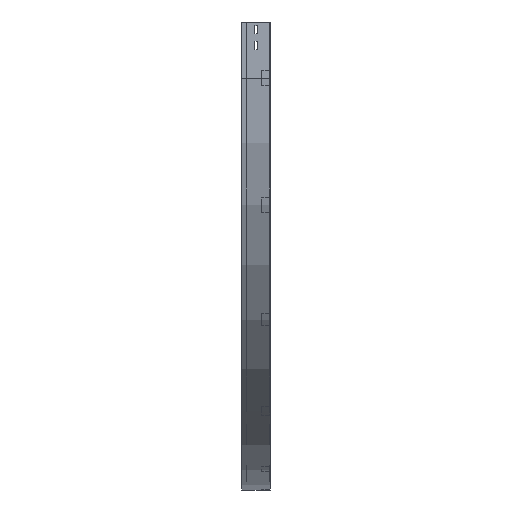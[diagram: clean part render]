
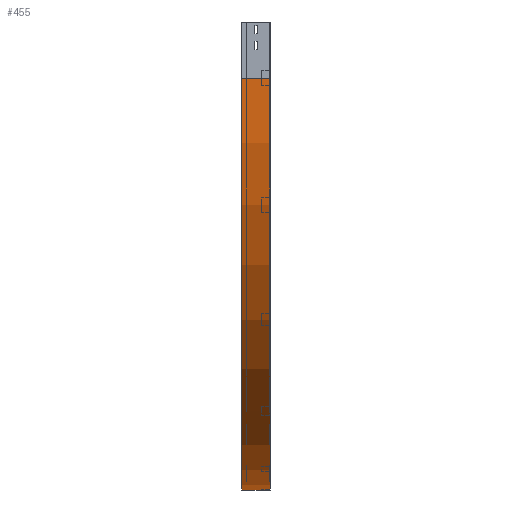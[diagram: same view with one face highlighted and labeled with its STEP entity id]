
A CAD part, left-side view. The second image highlights one B-rep face of the part: STEP entity #455.
In plain terms, the highlighted cylindrical face has radius 1100 mm (diameter 2200 mm), a partial arc.
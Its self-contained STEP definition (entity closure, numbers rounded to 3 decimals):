
#29 = DIRECTION ( 'NONE',  ( -1., 0., 0. ) ) ;
#38 = DIRECTION ( 'NONE',  ( -1., 0., 0. ) ) ;
#218 = ORIENTED_EDGE ( 'NONE', *, *, #429, .T. ) ;
#315 = CARTESIAN_POINT ( 'NONE',  ( 1100., 75., -1250. ) ) ;
#356 = DIRECTION ( 'NONE',  ( 0., -1., 0. ) ) ;
#412 = ORIENTED_EDGE ( 'NONE', *, *, #730, .T. ) ;
#429 = EDGE_CURVE ( 'NONE', #532, #1018, #1457, .T. ) ;
#455 = ADVANCED_FACE ( 'NONE', ( #648 ), #1841, .T. ) ;
#532 = VERTEX_POINT ( 'NONE', #925 ) ;
#634 = CARTESIAN_POINT ( 'NONE',  ( 0., 0., -150. ) ) ;
#648 = FACE_OUTER_BOUND ( 'NONE', #3246, .T. ) ;
#730 = EDGE_CURVE ( 'NONE', #1018, #2683, #1054, .T. ) ;
#865 = AXIS2_PLACEMENT_3D ( 'NONE', #3092, #2475, #29 ) ;
#925 = CARTESIAN_POINT ( 'NONE',  ( 0., 75., -150. ) ) ;
#997 = EDGE_CURVE ( 'NONE', #532, #2846, #3309, .T. ) ;
#1018 = VERTEX_POINT ( 'NONE', #315 ) ;
#1054 = LINE ( 'NONE', #2269, #2401 ) ;
#1253 = DIRECTION ( 'NONE',  ( 0., -1., 0. ) ) ;
#1425 = ORIENTED_EDGE ( 'NONE', *, *, #1628, .F. ) ;
#1457 = CIRCLE ( 'NONE', #1590, 1100. ) ;
#1590 = AXIS2_PLACEMENT_3D ( 'NONE', #2723, #1253, #38 ) ;
#1628 = EDGE_CURVE ( 'NONE', #2846, #2683, #2258, .T. ) ;
#1841 = CYLINDRICAL_SURFACE ( 'NONE', #2780, 1100. ) ;
#1892 = VECTOR ( 'NONE', #2432, 1000. ) ;
#1994 = CARTESIAN_POINT ( 'NONE',  ( 1100., 0., -1250. ) ) ;
#2258 = CIRCLE ( 'NONE', #865, 1100. ) ;
#2269 = CARTESIAN_POINT ( 'NONE',  ( 1100., 0., -1250. ) ) ;
#2401 = VECTOR ( 'NONE', #3157, 1000. ) ;
#2432 = DIRECTION ( 'NONE',  ( 0., -1., 0. ) ) ;
#2475 = DIRECTION ( 'NONE',  ( 0., -1., 0. ) ) ;
#2683 = VERTEX_POINT ( 'NONE', #1994 ) ;
#2723 = CARTESIAN_POINT ( 'NONE',  ( 1100., 75., -150. ) ) ;
#2780 = AXIS2_PLACEMENT_3D ( 'NONE', #3039, #356, #3238 ) ;
#2846 = VERTEX_POINT ( 'NONE', #2891 ) ;
#2891 = CARTESIAN_POINT ( 'NONE',  ( 0., 0., -150. ) ) ;
#2910 = ORIENTED_EDGE ( 'NONE', *, *, #997, .F. ) ;
#3039 = CARTESIAN_POINT ( 'NONE',  ( 1100., 0., -150. ) ) ;
#3092 = CARTESIAN_POINT ( 'NONE',  ( 1100., 0., -150. ) ) ;
#3157 = DIRECTION ( 'NONE',  ( 0., -1., 0. ) ) ;
#3238 = DIRECTION ( 'NONE',  ( 0., 0., -1. ) ) ;
#3246 = EDGE_LOOP ( 'NONE', ( #1425, #2910, #218, #412 ) ) ;
#3309 = LINE ( 'NONE', #634, #1892 ) ;
